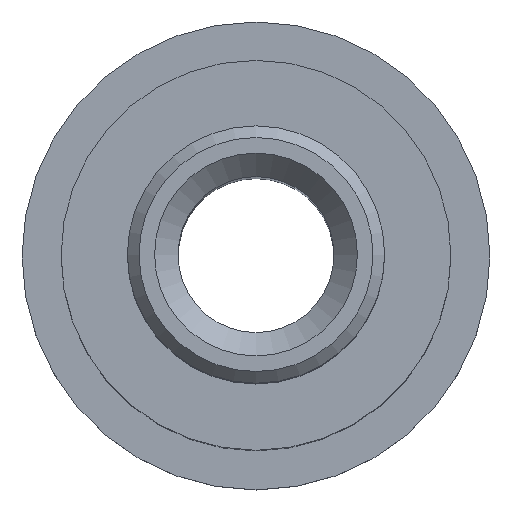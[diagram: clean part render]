
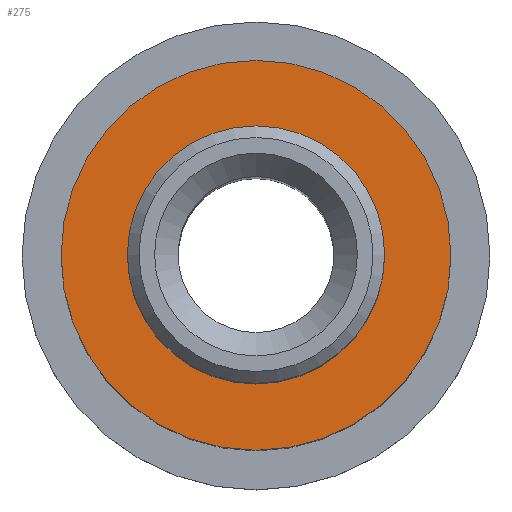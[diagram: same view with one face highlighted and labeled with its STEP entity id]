
A CAD part, top view. The second image highlights one B-rep face of the part: STEP entity #275.
In plain terms, the highlighted planar face has unit normal (0, 0, 1).
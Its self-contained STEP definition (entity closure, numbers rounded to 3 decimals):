
#241=CARTESIAN_POINT('',(3.3,0.,19.0));
#242=VERTEX_POINT('',#241);
#243=CARTESIAN_POINT('',(0.0,0.0,19.0));
#244=DIRECTION('',(0.0,0.0,1.0));
#245=DIRECTION('',(-1.0,0.0,0.0));
#246=AXIS2_PLACEMENT_3D('',#243,#244,#245);
#247=CIRCLE('',#246,3.3);
#248=EDGE_CURVE('',#242,#242,#247,.T.);
#256=CARTESIAN_POINT('',(0.0,0.0,19.0));
#257=DIRECTION('',(0.0,0.0,-1.0));
#258=DIRECTION('',(-1.0,0.0,0.0));
#259=AXIS2_PLACEMENT_3D('',#256,#257,#258);
#260=PLANE('',#259);
#261=CARTESIAN_POINT('',(5.0,0.,19.0));
#262=VERTEX_POINT('',#261);
#263=CARTESIAN_POINT('',(0.0,0.0,19.0));
#264=DIRECTION('',(0.0,0.0,-1.0));
#265=DIRECTION('',(-1.0,0.0,0.0));
#266=AXIS2_PLACEMENT_3D('',#263,#264,#265);
#267=CIRCLE('',#266,5.0);
#268=EDGE_CURVE('',#262,#262,#267,.T.);
#269=ORIENTED_EDGE('',*,*,#268,.F.);
#270=EDGE_LOOP('',(#269));
#271=FACE_OUTER_BOUND('',#270,.T.);
#272=ORIENTED_EDGE('',*,*,#248,.F.);
#273=EDGE_LOOP('',(#272));
#274=FACE_BOUND('',#273,.T.);
#275=ADVANCED_FACE('',(#271,#274),#260,.F.);
